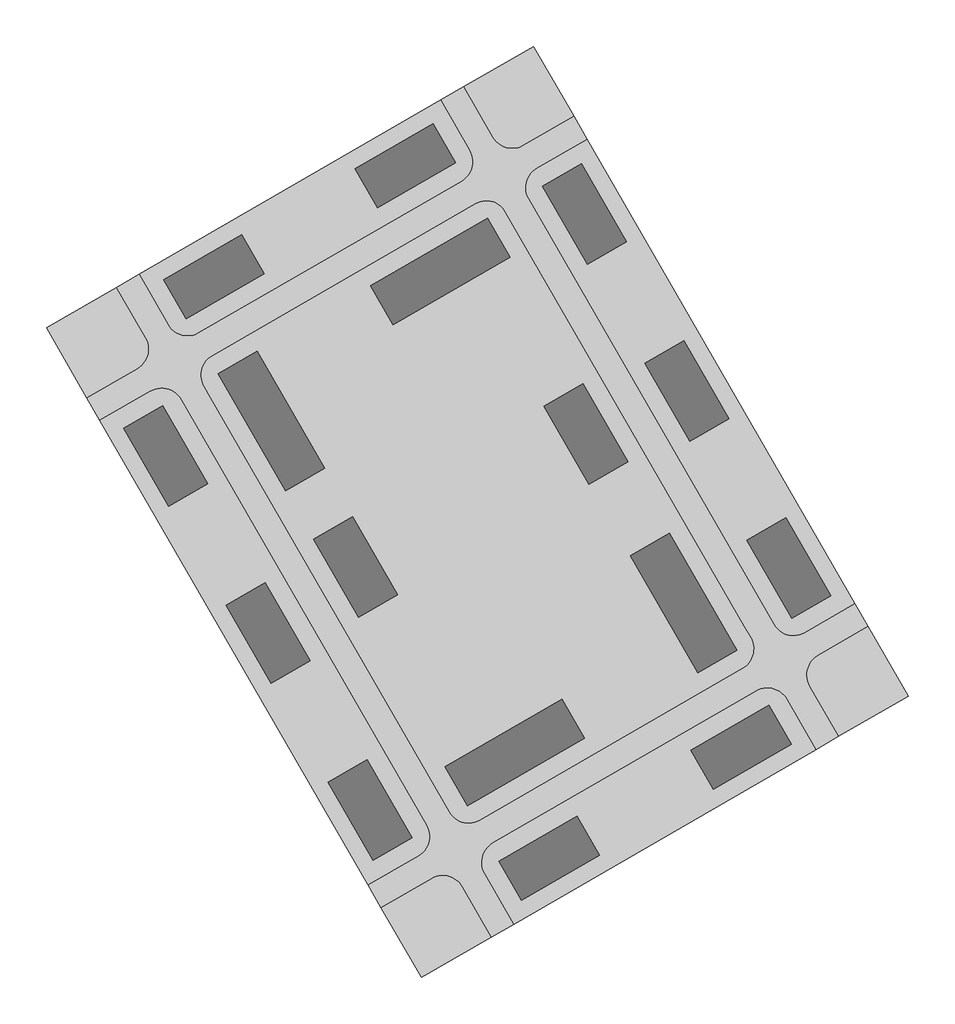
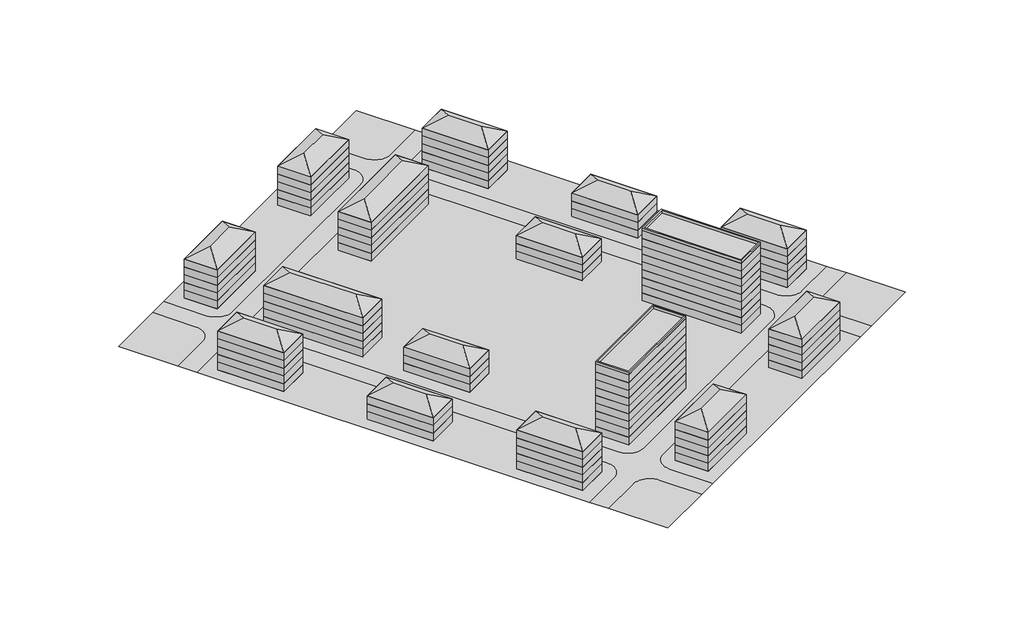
# One storey: 16 geographic elements, 10 proxies.
"""IFC4 building model written with IfcOpenShell, lengths in millimetres."""

from ifc_helpers import new_model, si_unit, origin, place, context, project, spatial, triangles, transform, mapped, element, save
from components import geographic_element_74677d7c, geographic_element_1048d0ae, geographic_element_9d3f6571, geographic_element_2330d4c5, geographic_element_d360f546, geographic_element_9aaef536

model = new_model("IFC4")

# Units and contexts
model_context = context("Model", 3, world=origin())
ifc_project = project(units=[si_unit("LENGTHUNIT", "METRE", prefix="MILLI")], contexts=[model_context])

# Site, building, storey
site = spatial("IfcSite", under=ifc_project)
building = spatial("IfcBuilding", under=site)
storey = spatial("IfcBuildingStorey", under=building, Name="Уровень 1", Elevation=0.0)

# Proxies
placement = place(None, origin())
element("IfcBuildingElementProxy", 1, Name="Building Element Proxy", at=placement, inside=storey, context=model_context, shape_type="Tessellation", body=[
    triangles([(176741.3793457, 76104.7360474, 0.0), (163317.994043, 68354.7346802, 0.0), (162669.791748, 68031.0102539, 0.0), (161987.2845703, 67787.7785889, 0.0), (161280.4439941, 67628.5883057, 0.0), (160559.5763672, 67555.755542, 0.0), (159835.1926758, 67570.3453491, 0.0), (159117.8225098, 67672.1437866, 0.0), (158417.9768555, 67859.6672241, 0.0), (157745.8318359, 68130.1855957, 0.0), (157111.1915039, 68479.7456543, 0.0), (156523.3204102, 68903.2593384, 0.0), (155990.7668701, 69394.540979, 0.0), (155521.3257568, 69946.4328735, 0.0), (155121.8338623, 70550.8890015, 0.0), (89621.8319092, 184000.2106934, 0.0), (89298.1121338, 184648.4129883, 0.0), (89054.8804688, 185330.920166, 0.0), (88895.6808838, 186037.7421387, 0.0), (88822.8481201, 186758.6283691, 0.0), (88837.4425781, 187483.0120605, 0.0), (88939.2410156, 188200.363623, 0.0), (89126.7644531, 188900.2278809, 0.0), (89397.2781738, 189572.3729004, 0.0), (89746.8475342, 190207.0132324, 0.0), (90170.3565674, 190794.8843262, 0.0), (90661.638208, 191327.4285645, 0.0), (91213.5301025, 191796.8696777, 0.0), (91817.9862305, 192196.3615723, 0.0), (105241.380835, 199946.3629395, 0.0), (101741.3805176, 206008.541748, 0.0), (88317.9859131, 198258.5403809, 0.0), (87669.7836182, 197934.8206055, 0.0), (86987.2857422, 197691.5982422, 0.0), (86280.4544678, 197532.3893555, 0.0), (85559.5775391, 197459.5565918, 0.0), (84835.1845459, 197474.1603516, 0.0), (84117.8329834, 197575.9587891, 0.0), (83417.9780273, 197763.4822266, 0.0), (82745.8330078, 198033.9959473, 0.0), (82111.1926758, 198383.5560059, 0.0), (81523.3122803, 198807.0650391, 0.0), (80990.768042, 199298.3466797, 0.0), (80521.3269287, 199850.2385742, 0.0), (80121.8350342, 200454.7040039, 0.0), (72371.833667, 213878.0893066, 0.0), (66309.6548584, 210378.098291, 0.0), (74059.6562256, 196954.6943848, 0.0), (74383.3806519, 196306.4920898, 0.0), (74626.6123169, 195624.0035156, 0.0), (74785.8026001, 194917.1629395, 0.0), (74858.6353638, 194196.2953125, 0.0), (74844.0455566, 193471.8930176, 0.0), (74742.2471191, 192754.5414551, 0.0), (74554.7190308, 192054.6958008, 0.0), (74284.2053101, 191382.5507812, 0.0), (73934.6452515, 190747.9104492, 0.0), (73511.1315674, 190160.020752, 0.0), (73019.8499268, 189627.4765137, 0.0), (72467.9580322, 189158.0354004, 0.0), (71863.5019043, 188758.5435059, 0.0), (1715.4448551, 148258.5504639, 0.0), (1067.2445223, 147934.8213867, 0.0), (384.7496258, 147691.5897217, 0.0), (-322.0874986, 147532.3994385, 0.0), (-1042.9595221, 147459.5666748, 0.0), (-1767.3546227, 147474.1518311, 0.0), (-2484.7093826, 147575.9502686, 0.0), (-3184.563176, 147763.4830078, 0.0), (-3856.7105209, 148033.9967285, 0.0), (-4491.3499809, 148383.5567871, 0.0), (-5079.227179, 148807.0658203, 0.0), (-5611.7696732, 149298.3567627, 0.0), (-6081.2119492, 149850.2486572, 0.0), (-6480.7073318, 150454.6954834, 0.0), (-14230.7081177, 163878.0900879, 0.0), (-20292.8846008, 160378.0990723, 0.0), (-12542.8855591, 146954.695166, 0.0), (-12219.1611328, 146306.5021729, 0.0), (-11975.9294678, 145624.0042969, 0.0), (-11816.7356964, 144917.1637207, 0.0), (-11743.9040955, 144196.2960938, 0.0), (-11758.4939026, 143471.9031006, 0.0), (-11860.2935028, 142754.5422363, 0.0), (-12047.8192657, 142054.6872803, 0.0), (-12318.3353119, 141382.5422607, 0.0), (-12667.8976959, 140747.9019287, 0.0), (-13091.4078918, 140160.0215332, 0.0), (-13582.6918579, 139627.4865967, 0.0), (-14134.5837524, 139158.0454834, 0.0), (-14239.3436371, 139088.8031982, 0.0), (-14739.0375549, 138758.5442871, 0.0), (-28162.4321594, 131008.5429199, 0.0), (-24662.431842, 124946.3641113, 0.0), (-11239.0384003, 132696.3654785, 0.0), (-10590.8372681, 133020.0945557, 0.0), (-9908.3428802, 133263.3262207, 0.0), (-9201.5057922, 133422.5165039, 0.0), (-8480.6335144, 133495.3492676, 0.0), (-7756.2381958, 133480.7641113, 0.0), (-7038.8837265, 133378.9563721, 0.0), (-6339.0299332, 133191.4329346, 0.0), (-5666.8825882, 132920.9192139, 0.0), (-5032.2428375, 132571.3591553, 0.0), (-4444.3656395, 132147.8501221, 0.0), (-3911.8231453, 131656.5591797, 0.0), (-3442.38116, 131104.6672852, 0.0), (-3042.8854866, 130500.2111572, 0.0), (62457.113269, 17050.8883026, 0.0), (62780.8376953, 16402.6871704, 0.0), (63024.0693604, 15720.1927826, 0.0), (63183.2642944, 15013.3556946, 0.0), (63256.0970581, 14292.4834167, 0.0), (63241.507251, 13568.0880981, 0.0), (63139.7041626, 12850.7342102, 0.0), (62952.1807251, 12150.8804169, 0.0), (62681.6670044, 11478.7319092, 0.0), (62332.1022949, 10844.0927399, 0.0), (61908.5932617, 10256.2158325, 0.0), (61417.3069702, 9723.6733383, 0.0), (60865.4150757, 9254.2310623, 0.0), (60260.9635986, 8854.7356796, 0.0), (46837.5689941, 1104.7354025, 0.0), (50337.5693115, -4957.4421707, 0.0), (63760.963916, 2792.5574524, 0.0), (64409.1615601, 3116.2818787, 0.0), (65091.659436, 3359.5138344, 0.0), (65798.4953613, 3518.7067337, 0.0), (66519.3676392, 3591.5392067, 0.0), (67243.7606323, 3576.9491089, 0.0), (67961.1168457, 3475.149218, 0.0), (68660.9718018, 3287.6237457, 0.0), (69333.1168213, 3017.1076996, 0.0), (69967.7571533, 2667.5456062, 0.0), (70555.6328979, 2244.0349743, 0.0), (71088.1771362, 1752.7512989, 0.0), (71557.6182495, 1200.8587503, 0.0), (71957.1147949, 596.4051659, 0.0), (79707.1161621, -12826.9891479, 0.0), (85769.2949707, -9326.9888306, 0.0), (78019.2936035, 4096.4051926, 0.0), (77695.5691772, 4744.6054527, 0.0), (77452.3375122, 5427.1001312, 0.0), (77293.1425781, 6133.9372192, 0.0), (77220.3098145, 6854.8094971, 0.0), (77234.8996216, 7579.2048157, 0.0), (77336.70271, 8296.559285, 0.0), (77524.2261475, 8996.4130783, 0.0), (77794.744519, 9668.5604233, 0.0), (78144.2999268, 10303.200174, 0.0), (78567.8182617, 10891.0770813, 0.0), (79059.0999023, 11423.6201569, 0.0), (79610.9917969, 11893.0612701, 0.0), (80215.4479248, 12292.5578156, 0.0), (150363.5010498, 52792.5589966, 0.0), (151011.7033447, 53116.2834229, 0.0), (151694.2012207, 53359.5150879, 0.0), (152401.0324951, 53518.7053711, 0.0), (153121.9094238, 53591.5381348, 0.0), (153846.302417, 53576.9483276, 0.0), (154563.6539795, 53475.1498901, 0.0), (155263.5089355, 53287.6218018, 0.0), (155935.6539551, 53017.1080811, 0.0), (156570.2942871, 52667.5433716, 0.0), (157158.1839844, 52244.0343384, 0.0), (157690.7096191, 51752.7526978, 0.0), (158160.1507324, 51200.8608032, 0.0), (158559.6612305, 50596.4046753, 0.0), (166309.6625977, 37173.0123962, 0.0), (172371.8414062, 40673.0103882, 0.0), (164621.8400391, 54096.4049927, 0.0), (164298.1016602, 54744.6072876, 0.0), (164054.8792969, 55427.1005127, 0.0), (163895.6890137, 56133.936438, 0.0), (163822.85625, 56854.8087158, 0.0), (163837.4414062, 57579.2063599, 0.0), (163939.2398437, 58296.5579224, 0.0), (164126.7632812, 58996.4128784, 0.0), (164397.277002, 59668.5625488, 0.0), (164746.8370605, 60303.19823, 0.0), (165170.3646973, 60891.0786255, 0.0), (165661.6463379, 61423.6182129, 0.0), (166213.5382324, 61893.0639771, 0.0), (166318.2946289, 61962.3016113, 0.0), (166817.9850586, 62292.5558716, 0.0), (180241.3703613, 70042.5572388, 0.0), (75363.5022217, 182696.3646973, 0.0), (76011.7045166, 183020.0844727, 0.0), (76694.1977417, 183263.3254395, 0.0), (77401.033667, 183422.5157227, 0.0), (78121.9105957, 183495.3484863, 0.0), (78846.3035889, 183480.7633301, 0.0), (79563.6551514, 183378.9648926, 0.0), (80263.5101074, 183191.4414551, 0.0), (80935.655127, 182920.9091309, 0.0), (81570.295459, 182571.3490723, 0.0), (82158.1758545, 182147.8400391, 0.0), (82690.7200928, 181656.5583984, 0.0), (83160.1612061, 181104.6665039, 0.0), (83559.6531006, 180500.2196777, 0.0), (147309.6595459, 70081.9780884, 0.0), (149059.6550537, 67050.8886841, 0.0), (149383.3748291, 66402.6863892, 0.0), (149626.6157959, 65720.1931641, 0.0), (149785.8060791, 65013.3572388, 0.0), (149858.6388428, 64292.4849609, 0.0), (149844.0443848, 63568.0873169, 0.0), (149742.2459473, 62850.7357544, 0.0), (149554.7225098, 62150.8807983, 0.0), (149284.2087891, 61478.7311279, 0.0), (148934.6394287, 60844.0907959, 0.0), (148511.1303955, 60256.2150513, 0.0), (148019.8487549, 59723.6754639, 0.0), (147467.9568604, 59254.2296997, 0.0), (146863.5007324, 58854.7331543, 0.0), (76715.4429565, 18354.7354614, 0.0), (76067.2453125, 18031.0110352, 0.0), (75384.7474365, 17787.7793701, 0.0), (74677.9115112, 17628.5867615, 0.0), (73957.0392334, 17555.7539978, 0.0), (73232.6462402, 17570.3438049, 0.0), (72515.2900269, 17672.1434052, 0.0), (71815.4350708, 17859.6691681, 0.0), (71143.2900513, 18130.1852142, 0.0), (70508.6497192, 18479.7475983, 0.0), (69920.7739746, 18903.2577942, 0.0), (69388.2297363, 19394.5417603, 0.0), (68918.788623, 19946.4336548, 0.0), (68519.2920776, 20550.8874573, 0.0), (4769.292318, 130969.1313721, 0.0), (3019.29245, 134000.2114746, 0.0), (2695.5680237, 134648.4137695, 0.0), (2452.336068, 135330.9116455, 0.0), (2293.143314, 136037.7522217, 0.0), (2220.310841, 136758.6198486, 0.0), (2234.9009388, 137483.0128418, 0.0), (2336.700975, 138200.3737061, 0.0), (2524.2261566, 138900.2193604, 0.0), (2794.7422028, 139572.3736816, 0.0), (3144.3042961, 140207.0140137, 0.0), (3567.8150734, 140794.8851074, 0.0), (4059.0987488, 141327.4293457, 0.0), (4610.9912247, 141796.870459, 0.0), (5215.4450272, 142196.3716553, 0.0)], [[122, 123, 125], [121, 122, 126], [94, 92, 93], [108, 109, 230], [231, 108, 230], [127, 120, 121], [118, 119, 129], [119, 120, 128], [117, 131, 116], [109, 110, 228], [118, 130, 117], [123, 124, 125], [230, 109, 229], [91, 95, 96], [92, 94, 95], [87, 98, 99], [85, 100, 101], [86, 99, 100], [89, 96, 97], [235, 104, 105], [233, 106, 107], [234, 105, 106], [237, 102, 103], [104, 236, 103], [108, 232, 107], [101, 102, 68], [108, 231, 232], [107, 232, 233], [88, 97, 98], [128, 120, 127], [127, 121, 126], [129, 130, 118], [119, 128, 129], [131, 117, 130], [116, 131, 147], [126, 122, 125], [133, 134, 145], [142, 136, 137], [134, 135, 144], [116, 148, 115], [147, 131, 132], [115, 148, 222], [133, 146, 132], [136, 143, 135], [111, 112, 226], [225, 112, 113], [226, 112, 225], [229, 109, 228], [226, 227, 111], [110, 227, 228], [113, 114, 224], [110, 111, 227], [223, 115, 222], [220, 221, 150], [222, 149, 221], [224, 225, 113], [224, 114, 223], [220, 151, 219], [223, 114, 115], [219, 152, 218], [137, 138, 141], [90, 91, 96], [96, 89, 90], [98, 87, 88], [86, 87, 99], [88, 89, 97], [101, 68, 69], [83, 84, 70], [85, 69, 84], [79, 80, 74], [81, 82, 72], [80, 81, 73], [83, 71, 82], [85, 86, 100], [78, 79, 75], [74, 80, 73], [71, 72, 82], [77, 78, 76], [76, 78, 75], [74, 75, 79], [73, 81, 72], [238, 67, 68], [240, 65, 66], [66, 67, 239], [69, 70, 84], [242, 63, 64], [64, 65, 241], [69, 85, 101], [71, 83, 70], [92, 95, 91], [104, 235, 236], [105, 234, 235], [238, 68, 102], [102, 237, 238], [239, 67, 238], [239, 240, 66], [236, 237, 103], [241, 65, 240], [243, 63, 242], [242, 64, 241], [243, 244, 62], [61, 244, 187], [62, 244, 61], [243, 62, 63], [61, 187, 188], [60, 61, 188], [190, 58, 59], [59, 60, 189], [45, 46, 47], [48, 45, 47], [57, 58, 191], [193, 55, 56], [39, 53, 54], [54, 55, 23], [44, 48, 49], [41, 51, 52], [43, 49, 50], [52, 53, 40], [56, 57, 192], [42, 50, 51], [188, 189, 60], [106, 233, 234], [144, 135, 143], [143, 136, 142], [147, 132, 146], [149, 222, 148], [148, 116, 147], [146, 133, 145], [140, 141, 138], [142, 137, 141], [152, 219, 151], [153, 217, 218], [153, 218, 152], [151, 220, 150], [138, 139, 140], [150, 221, 149], [217, 154, 216], [154, 217, 153], [215, 216, 155], [154, 155, 216], [157, 212, 213], [213, 214, 156], [215, 155, 214], [210, 211, 159], [9, 208, 209], [210, 160, 209], [13, 204, 205], [11, 206, 207], [12, 205, 206], [207, 208, 10], [212, 158, 211], [145, 134, 144], [213, 156, 157], [211, 158, 159], [209, 161, 9], [161, 162, 8], [212, 157, 158], [172, 167, 168], [168, 169, 171], [166, 167, 173], [163, 164, 176], [174, 165, 166], [164, 165, 175], [169, 170, 171], [162, 163, 177], [175, 176, 164], [165, 174, 175], [174, 166, 173], [172, 173, 167], [177, 163, 176], [162, 178, 8], [178, 162, 177], [7, 178, 179], [6, 179, 180], [161, 209, 160], [181, 182, 4], [3, 183, 184], [3, 182, 183], [180, 181, 5], [168, 171, 172], [160, 210, 159], [214, 155, 156], [2, 184, 185], [194, 195, 21], [192, 57, 191], [22, 55, 193], [193, 56, 192], [193, 194, 22], [191, 58, 190], [19, 197, 18], [17, 198, 199], [18, 197, 198], [20, 21, 195], [20, 196, 19], [196, 197, 19], [20, 195, 196], [199, 200, 16], [21, 22, 194], [52, 40, 41], [53, 39, 40], [45, 48, 44], [50, 42, 43], [43, 44, 49], [51, 41, 42], [25, 36, 37], [34, 35, 27], [36, 26, 35], [24, 37, 38], [29, 32, 33], [33, 34, 28], [55, 22, 23], [54, 38, 39], [38, 54, 23], [190, 59, 189], [203, 15, 202], [207, 10, 11], [206, 11, 12], [14, 203, 204], [13, 205, 12], [204, 13, 14], [15, 203, 14], [9, 161, 8], [7, 179, 6], [178, 7, 8], [3, 184, 2], [182, 3, 4], [181, 4, 5], [10, 208, 9], [180, 5, 6], [16, 17, 199], [18, 198, 17], [24, 25, 37], [28, 34, 27], [25, 26, 36], [23, 24, 38], [201, 202, 15], [1, 2, 185], [30, 32, 29], [31, 32, 30], [33, 28, 29], [201, 15, 16], [16, 200, 201], [27, 35, 26], [185, 186, 1]], closed=False),
])
element("IfcBuildingElementProxy", 2, Name="Building Element Proxy", at=placement, inside=storey, context=model_context, shape_type="Tessellation", body=[
    triangles([(74059.6562256, 196954.6943848, 0.0), (66309.6548584, 210378.098291, 0.0), (-14230.7081177, 163878.0900879, 0.0), (-6480.7073318, 150454.6954834, 0.0), (-6081.2119492, 149850.2486572, 0.0), (-5611.7696732, 149298.3567627, 0.0), (-5079.227179, 148807.0658203, 0.0), (-4491.3499809, 148383.5567871, 0.0), (-3856.7105209, 148033.9967285, 0.0), (-3184.563176, 147763.4830078, 0.0), (-2484.7093826, 147575.9502686, 0.0), (-1767.3546227, 147474.1518311, 0.0), (-1042.9595221, 147459.5666748, 0.0), (-322.0874986, 147532.3994385, 0.0), (384.7496258, 147691.5897217, 0.0), (1067.2445223, 147934.8213867, 0.0), (1715.4448551, 148258.5504639, 0.0), (71863.5019043, 188758.5435059, 0.0), (72467.9580322, 189158.0354004, 0.0), (73019.8499268, 189627.4765137, 0.0), (73511.1315674, 190160.020752, 0.0), (73934.6452515, 190747.9104492, 0.0), (74284.2053101, 191382.5507812, 0.0), (74554.7190308, 192054.6958008, 0.0), (74742.2471191, 192754.5414551, 0.0), (74844.0455566, 193471.8930176, 0.0), (74858.6353638, 194196.2953125, 0.0), (74785.8026001, 194917.1629395, 0.0), (74626.6123169, 195624.0035156, 0.0), (74383.3806519, 196306.4920898, 0.0)], [[4, 10, 11], [12, 4, 11], [4, 13, 14], [14, 15, 4], [13, 4, 12], [4, 15, 16], [5, 6, 4], [17, 3, 4], [4, 6, 7], [4, 9, 10], [4, 16, 17], [8, 9, 4], [7, 8, 4], [3, 17, 2], [19, 25, 18], [24, 19, 20], [21, 22, 23], [24, 20, 23], [23, 20, 21], [25, 19, 24], [29, 30, 18], [30, 1, 18], [1, 2, 18], [26, 27, 18], [28, 18, 27], [28, 29, 18], [26, 18, 25], [18, 2, 17]], closed=False),
])
element("IfcBuildingElementProxy", 3, Name="Building Element Proxy", at=placement, inside=storey, context=model_context, shape_type="Tessellation", body=[
    triangles([(-38912.4318054, 149628.0947754, 0.0), (-28162.4321594, 131008.5429199, 0.0), (-14739.0375549, 138758.5442871, 0.0), (-14239.3436371, 139088.8031982, 0.0), (-14134.5837524, 139158.0454834, 0.0), (-13582.6918579, 139627.4865967, 0.0), (-13091.4078918, 140160.0215332, 0.0), (-12667.8976959, 140747.9019287, 0.0), (-12318.3353119, 141382.5422607, 0.0), (-12047.8192657, 142054.6872803, 0.0), (-11860.2935028, 142754.5422363, 0.0), (-11758.4939026, 143471.9031006, 0.0), (-11743.9040955, 144196.2960938, 0.0), (-11816.7356964, 144917.1637207, 0.0), (-11975.9294678, 145624.0042969, 0.0), (-12219.1611328, 146306.5021729, 0.0), (-12542.8855591, 146954.695166, 0.0), (-20292.8846008, 160378.0990723, 0.0)], [[1, 2, 3], [4, 17, 3], [6, 4, 5], [18, 1, 17], [7, 8, 4], [1, 3, 17], [7, 4, 6], [8, 9, 4], [11, 4, 10], [4, 11, 12], [4, 12, 13], [4, 16, 17], [14, 15, 4], [16, 4, 15], [4, 13, 14], [4, 9, 10]], closed=False),
])
element("IfcBuildingElementProxy", 4, Name="Building Element Proxy", at=placement, inside=storey, context=model_context, shape_type="Tessellation", body=[
    triangles([(90991.3762207, 224628.0936035, 0.0), (72371.833667, 213878.0893066, 0.0), (80121.8350342, 200454.7040039, 0.0), (80521.3269287, 199850.2385742, 0.0), (80990.768042, 199298.3466797, 0.0), (81523.3122803, 198807.0650391, 0.0), (82111.1926758, 198383.5560059, 0.0), (82745.8330078, 198033.9959473, 0.0), (83417.9780273, 197763.4822266, 0.0), (84117.8329834, 197575.9587891, 0.0), (84835.1845459, 197474.1603516, 0.0), (85559.5775391, 197459.5565918, 0.0), (86280.4544678, 197532.3893555, 0.0), (86987.2857422, 197691.5982422, 0.0), (87669.7836182, 197934.8206055, 0.0), (88317.9859131, 198258.5403809, 0.0), (101741.3805176, 206008.541748, 0.0)], [[3, 6, 7], [3, 7, 8], [3, 8, 9], [3, 5, 6], [4, 5, 3], [2, 3, 1], [3, 9, 10], [11, 12, 3], [13, 3, 12], [13, 14, 3], [16, 3, 15], [16, 17, 1], [3, 16, 1], [14, 15, 3], [10, 11, 3]], closed=False),
])
element("IfcBuildingElementProxy", 5, Name="Building Element Proxy", at=placement, inside=storey, context=model_context, shape_type="Tessellation", body=[
    triangles([(163317.994043, 68354.7346802, 0.0), (176741.3793457, 76104.7360474, 0.0), (105241.380835, 199946.3629395, 0.0), (91817.9862305, 192196.3615723, 0.0), (91213.5301025, 191796.8696777, 0.0), (90661.638208, 191327.4285645, 0.0), (90170.3565674, 190794.8843262, 0.0), (89746.8475342, 190207.0132324, 0.0), (89397.2781738, 189572.3729004, 0.0), (89126.7644531, 188900.2278809, 0.0), (88939.2410156, 188200.363623, 0.0), (88837.4425781, 187483.0120605, 0.0), (88822.8481201, 186758.6283691, 0.0), (88895.6808838, 186037.7421387, 0.0), (89054.8804688, 185330.920166, 0.0), (89298.1121338, 184648.4129883, 0.0), (89621.8319092, 184000.2106934, 0.0), (155121.8338623, 70550.8890015, 0.0), (155521.3257568, 69946.4328735, 0.0), (155990.7668701, 69394.540979, 0.0), (156523.3204102, 68903.2593384, 0.0), (157111.1915039, 68479.7456543, 0.0), (157745.8318359, 68130.1855957, 0.0), (158417.9768555, 67859.6672241, 0.0), (159117.8225098, 67672.1437866, 0.0), (159835.1926758, 67570.3453491, 0.0), (160559.5763672, 67555.755542, 0.0), (161280.4439941, 67628.5883057, 0.0), (161987.2845703, 67787.7785889, 0.0), (162669.791748, 68031.0102539, 0.0)], [[11, 12, 4], [13, 4, 12], [4, 15, 16], [15, 4, 14], [13, 14, 4], [16, 17, 4], [4, 8, 9], [4, 7, 8], [9, 10, 4], [6, 7, 5], [5, 7, 4], [11, 4, 10], [17, 3, 4], [17, 18, 3], [25, 1, 24], [26, 1, 25], [27, 28, 30], [29, 30, 28], [26, 27, 1], [27, 30, 1], [19, 20, 1], [1, 18, 19], [1, 20, 21], [23, 1, 22], [1, 23, 24], [1, 21, 22], [18, 1, 2], [18, 2, 3]], closed=False),
])
element("IfcBuildingElementProxy", 6, Name="Building Element Proxy", at=placement, inside=storey, context=model_context, shape_type="Tessellation", body=[
    triangles([(60260.9635986, 8854.7356796, 0.0), (60865.4150757, 9254.2310623, 0.0), (61417.3069702, 9723.6733383, 0.0), (61908.5932617, 10256.2158325, 0.0), (62332.1022949, 10844.0927399, 0.0), (62681.6670044, 11478.7319092, 0.0), (62952.1807251, 12150.8804169, 0.0), (63139.7041626, 12850.7342102, 0.0), (63241.507251, 13568.0880981, 0.0), (63256.0970581, 14292.4834167, 0.0), (63183.2642944, 15013.3556946, 0.0), (63024.0693604, 15720.1927826, 0.0), (62780.8376953, 16402.6871704, 0.0), (62457.113269, 17050.8883026, 0.0), (-3042.8854866, 130500.2111572, 0.0), (-3442.38116, 131104.6672852, 0.0), (-3911.8231453, 131656.5591797, 0.0), (-4444.3656395, 132147.8501221, 0.0), (-5032.2428375, 132571.3591553, 0.0), (-5666.8825882, 132920.9192139, 0.0), (-6339.0299332, 133191.4329346, 0.0), (-7038.8837265, 133378.9563721, 0.0), (-7756.2381958, 133480.7641113, 0.0), (-8480.6335144, 133495.3492676, 0.0), (-9201.5057922, 133422.5165039, 0.0), (-9908.3428802, 133263.3262207, 0.0), (-10590.8372681, 133020.0945557, 0.0), (-11239.0384003, 132696.3654785, 0.0), (-24662.431842, 124946.3641113, 0.0), (46837.5689941, 1104.7354025, 0.0)], [[28, 18, 19], [15, 28, 29], [28, 19, 27], [17, 28, 16], [18, 28, 17], [16, 28, 15], [29, 14, 15], [21, 25, 26], [22, 24, 25], [26, 27, 20], [22, 25, 21], [23, 24, 22], [21, 26, 20], [27, 19, 20], [1, 14, 30], [2, 7, 1], [3, 4, 5], [5, 6, 3], [3, 6, 2], [6, 7, 2], [12, 13, 1], [1, 11, 12], [14, 1, 13], [7, 8, 1], [10, 1, 9], [1, 10, 11], [8, 9, 1], [30, 14, 29]], closed=False),
])
element("IfcBuildingElementProxy", 7, Name="Building Element Proxy", at=placement, inside=storey, context=model_context, shape_type="Tessellation", body=[
    triangles([(61087.5689575, -23576.9887939, 0.0), (79707.1161621, -12826.9891479, 0.0), (71957.1147949, 596.4051659, 0.0), (71557.6182495, 1200.8587503, 0.0), (71088.1771362, 1752.7512989, 0.0), (70555.6328979, 2244.0349743, 0.0), (69967.7571533, 2667.5456062, 0.0), (69333.1168213, 3017.1076996, 0.0), (68660.9718018, 3287.6237457, 0.0), (67961.1168457, 3475.149218, 0.0), (67243.7606323, 3576.9491089, 0.0), (66519.3676392, 3591.5392067, 0.0), (65798.4953613, 3518.7067337, 0.0), (65091.659436, 3359.5138344, 0.0), (64409.1615601, 3116.2818787, 0.0), (63760.963916, 2792.5574524, 0.0), (50337.5693115, -4957.4421707, 0.0)], [[17, 1, 16], [15, 3, 14], [3, 15, 16], [3, 12, 13], [3, 11, 12], [3, 13, 14], [16, 1, 3], [4, 5, 3], [11, 3, 10], [3, 5, 6], [10, 3, 9], [3, 7, 8], [8, 9, 3], [7, 3, 6], [3, 1, 2]], closed=False),
])
element("IfcBuildingElementProxy", 8, Name="Building Element Proxy", at=placement, inside=storey, context=model_context, shape_type="Tessellation", body=[
    triangles([(78019.2936035, 4096.4051926, 0.0), (85769.2949707, -9326.9888306, 0.0), (166309.6625977, 37173.0123962, 0.0), (158559.6612305, 50596.4046753, 0.0), (158160.1507324, 51200.8608032, 0.0), (157690.7096191, 51752.7526978, 0.0), (157158.1839844, 52244.0343384, 0.0), (156570.2942871, 52667.5433716, 0.0), (155935.6539551, 53017.1080811, 0.0), (155263.5089355, 53287.6218018, 0.0), (154563.6539795, 53475.1498901, 0.0), (153846.302417, 53576.9483276, 0.0), (153121.9094238, 53591.5381348, 0.0), (152401.0324951, 53518.7053711, 0.0), (151694.2012207, 53359.5150879, 0.0), (151011.7033447, 53116.2834229, 0.0), (150363.5010498, 52792.5589966, 0.0), (80215.4479248, 12292.5578156, 0.0), (79610.9917969, 11893.0612701, 0.0), (79059.0999023, 11423.6201569, 0.0), (78567.8182617, 10891.0770813, 0.0), (78144.2999268, 10303.200174, 0.0), (77794.744519, 9668.5604233, 0.0), (77524.2261475, 8996.4130783, 0.0), (77336.70271, 8296.559285, 0.0), (77234.8996216, 7579.2048157, 0.0), (77220.3098145, 6854.8094971, 0.0), (77293.1425781, 6133.9372192, 0.0), (77452.3375122, 5427.1001312, 0.0), (77695.5691772, 4744.6054527, 0.0)], [[26, 27, 21], [28, 20, 27], [30, 1, 18], [18, 29, 30], [19, 28, 29], [18, 1, 2], [24, 25, 23], [22, 23, 25], [26, 22, 25], [26, 21, 22], [27, 20, 21], [19, 20, 28], [29, 18, 19], [2, 17, 18], [8, 4, 7], [17, 4, 16], [9, 4, 8], [4, 6, 7], [5, 6, 4], [4, 17, 3], [17, 2, 3], [14, 15, 4], [13, 14, 4], [16, 4, 15], [10, 11, 4], [12, 4, 11], [12, 13, 4], [10, 4, 9]], closed=False),
])
element("IfcBuildingElementProxy", 9, Name="Building Element Proxy", at=placement, inside=storey, context=model_context, shape_type="Tessellation", body=[
    triangles([(190991.3746582, 51423.0100342, 0.0), (180241.3703613, 70042.5572388, 0.0), (166817.9850586, 62292.5558716, 0.0), (166318.2946289, 61962.3016113, 0.0), (166213.5382324, 61893.0639771, 0.0), (165661.6463379, 61423.6182129, 0.0), (165170.3646973, 60891.0786255, 0.0), (164746.8370605, 60303.19823, 0.0), (164397.277002, 59668.5625488, 0.0), (164126.7632812, 58996.4128784, 0.0), (163939.2398437, 58296.5579224, 0.0), (163837.4414062, 57579.2063599, 0.0), (163822.85625, 56854.8087158, 0.0), (163895.6890137, 56133.936438, 0.0), (164054.8792969, 55427.1005127, 0.0), (164298.1016602, 54744.6072876, 0.0), (164621.8400391, 54096.4049927, 0.0), (172371.8414062, 40673.0103882, 0.0)], [[13, 14, 4], [14, 15, 4], [15, 16, 4], [12, 13, 4], [4, 11, 12], [11, 4, 10], [10, 4, 9], [16, 17, 4], [4, 7, 8], [17, 3, 4], [18, 1, 17], [17, 1, 3], [5, 6, 4], [7, 4, 6], [9, 4, 8], [1, 2, 3]], closed=False),
])
element("IfcBuildingElementProxy", 10, Name="Building Element Proxy", at=placement, inside=storey, context=model_context, shape_type="Tessellation", body=[
    triangles([(75363.5022217, 182696.3646973, 0.0), (5215.4450272, 142196.3716553, 0.0), (4610.9912247, 141796.870459, 0.0), (4059.0987488, 141327.4293457, 0.0), (3567.8150734, 140794.8851074, 0.0), (3144.3042961, 140207.0140137, 0.0), (2794.7422028, 139572.3736816, 0.0), (2524.2261566, 138900.2193604, 0.0), (2336.700975, 138200.3737061, 0.0), (2234.9009388, 137483.0128418, 0.0), (2220.310841, 136758.6198486, 0.0), (2293.143314, 136037.7522217, 0.0), (2452.336068, 135330.9116455, 0.0), (2695.5680237, 134648.4137695, 0.0), (3019.29245, 134000.2114746, 0.0), (4769.292318, 130969.1313721, 0.0), (68519.2920776, 20550.8874573, 0.0), (68918.788623, 19946.4336548, 0.0), (69388.2297363, 19394.5417603, 0.0), (69920.7739746, 18903.2577942, 0.0), (70508.6497192, 18479.7475983, 0.0), (71143.2900513, 18130.1852142, 0.0), (71815.4350708, 17859.6691681, 0.0), (72515.2900269, 17672.1434052, 0.0), (73232.6462402, 17570.3438049, 0.0), (73957.0392334, 17555.7539978, 0.0), (74677.9115112, 17628.5867615, 0.0), (75384.7474365, 17787.7793701, 0.0), (76067.2453125, 18031.0110352, 0.0), (76715.4429565, 18354.7354614, 0.0), (146863.5007324, 58854.7331543, 0.0), (147467.9568604, 59254.2296997, 0.0), (148019.8487549, 59723.6754639, 0.0), (148511.1303955, 60256.2150513, 0.0), (148934.6394287, 60844.0907959, 0.0), (149284.2087891, 61478.7311279, 0.0), (149554.7225098, 62150.8807983, 0.0), (149742.2459473, 62850.7357544, 0.0), (149844.0443848, 63568.0873169, 0.0), (149858.6388428, 64292.4849609, 0.0), (149785.8060791, 65013.3572388, 0.0), (149626.6157959, 65720.1931641, 0.0), (149383.3748291, 66402.6863892, 0.0), (149059.6550537, 67050.8886841, 0.0), (147309.6595459, 70081.9780884, 0.0), (83559.6531006, 180500.2196777, 0.0), (83160.1612061, 181104.6665039, 0.0), (82690.7200928, 181656.5583984, 0.0), (82158.1758545, 182147.8400391, 0.0), (81570.295459, 182571.3490723, 0.0), (80935.655127, 182920.9091309, 0.0), (80263.5101074, 183191.4414551, 0.0), (79563.6551514, 183378.9648926, 0.0), (78846.3035889, 183480.7633301, 0.0), (78121.9105957, 183495.3484863, 0.0), (77401.033667, 183422.5157227, 0.0), (76694.1977417, 183263.3254395, 0.0), (76011.7045166, 183020.0844727, 0.0)], [[28, 19, 20], [29, 18, 19], [46, 1, 16], [30, 17, 18], [2, 15, 16], [27, 20, 21], [22, 25, 26], [26, 27, 21], [23, 24, 25], [22, 23, 25], [27, 28, 20], [21, 22, 26], [16, 17, 45], [12, 3, 11], [13, 2, 12], [5, 9, 10], [6, 8, 9], [4, 10, 11], [13, 14, 2], [7, 8, 6], [6, 9, 5], [4, 5, 10], [11, 3, 4], [12, 2, 3], [2, 14, 15], [1, 2, 16], [1, 54, 58], [19, 28, 29], [17, 30, 45], [30, 31, 45], [37, 32, 33], [33, 34, 36], [31, 32, 38], [35, 36, 34], [37, 38, 32], [38, 39, 31], [31, 41, 42], [41, 31, 40], [40, 31, 39], [33, 36, 37], [42, 43, 31], [52, 53, 1], [1, 51, 52], [53, 54, 1], [56, 57, 55], [57, 58, 55], [54, 55, 58], [46, 47, 1], [44, 45, 31], [1, 47, 48], [1, 50, 51], [1, 49, 50], [49, 1, 48], [45, 46, 16], [43, 44, 31], [30, 18, 29]], closed=False),
])

# Geographic elements
geographic_element_shape = geographic_element_74677d7c(model_context)
element("IfcGeographicElement", 11, ObjectType="Окружающая застройка : 5 кж", at=placement, inside=storey, context=model_context, shape_type="MappedRepresentation", body=[
    mapped(geographic_element_shape, transform((6849.4194272, 137366.2411343, 0.0), x_axis=(0.4999999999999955, -0.8660254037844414, 0.0), y_axis=(0.8660254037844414, 0.4999999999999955, 0.0), z_axis=(0.0, 0.0, 1.0))),
])
element("IfcGeographicElement", 12, ObjectType="Окружающая застройка : 5 кж", at=placement, inside=storey, context=model_context, shape_type="MappedRepresentation", body=[
    mapped(geographic_element_shape, transform((78729.5279413, 178866.2411343, 0.0), x_axis=(-0.866025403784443, -0.49999999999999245, 0.0), y_axis=(0.49999999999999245, -0.866025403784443, 0.0), z_axis=(0.0, 0.0, 1.0))),
])
geographic_element_2_shape = geographic_element_1048d0ae(model_context)
element("IfcGeographicElement", 13, ObjectType="Окружающая застройка : 3 кж", at=placement, inside=storey, context=model_context, shape_type="MappedRepresentation", body=[
    mapped(geographic_element_2_shape, transform((54741.7242726, 78414.3358505, 0.0), x_axis=(-0.4999999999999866, 0.8660254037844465, 0.0), y_axis=(-0.8660254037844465, -0.4999999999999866, 0.0), z_axis=(0.0, 0.0, 1.0))),
])
element("IfcGeographicElement", 14, ObjectType="Окружающая застройка : 3 кж", at=placement, inside=storey, context=model_context, shape_type="MappedRepresentation", body=[
    mapped(geographic_element_2_shape, transform((116229.5279413, 113914.3358505, 0.0), x_axis=(-0.4999999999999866, 0.8660254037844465, 0.0), y_axis=(-0.8660254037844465, -0.4999999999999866, 0.0), z_axis=(0.0, 0.0, 1.0))),
])
geographic_element_3_shape = geographic_element_9d3f6571(model_context)
element("IfcGeographicElement", 15, ObjectType="Окружающая застройка : 3 кж", at=placement, inside=storey, context=model_context, shape_type="MappedRepresentation", body=[
    mapped(geographic_element_3_shape, transform((19376.9875628, 81667.8566281, 0.0), x_axis=(0.4999999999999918, -0.8660254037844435, 0.0), y_axis=(0.8660254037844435, 0.4999999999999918, 0.0), z_axis=(0.0, 0.0, 1.0))),
])
element("IfcGeographicElement", 16, ObjectType="Окружающая застройка : 3 кж", at=placement, inside=storey, context=model_context, shape_type="MappedRepresentation", body=[
    mapped(geographic_element_3_shape, transform((131094.264651, 146167.8566281, 0.0), x_axis=(0.4999999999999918, -0.8660254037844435, 0.0), y_axis=(0.8660254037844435, 0.4999999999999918, 0.0), z_axis=(0.0, 0.0, 1.0))),
])
geographic_element_4_shape = geographic_element_2330d4c5(model_context)
element("IfcGeographicElement", 17, ObjectType="Окружающая застройка : 5 кж", at=placement, inside=storey, context=model_context, shape_type="MappedRepresentation", body=[
    mapped(geographic_element_4_shape, transform((-7873.0124372, 128866.2411343, 0.0), x_axis=(0.4999999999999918, -0.8660254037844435, 0.0), y_axis=(0.8660254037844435, 0.4999999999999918, 0.0), z_axis=(0.0, 0.0, 1.0))),
])
element("IfcGeographicElement", 18, ObjectType="Окружающая застройка : 5 кж", at=placement, inside=storey, context=model_context, shape_type="MappedRepresentation", body=[
    mapped(geographic_element_4_shape, transform((46626.9875628, 34469.4721218, 0.0), x_axis=(0.4999999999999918, -0.8660254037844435, 0.0), y_axis=(0.8660254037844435, 0.4999999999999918, 0.0), z_axis=(0.0, 0.0, 1.0))),
])
element("IfcGeographicElement", 19, ObjectType="Окружающая застройка : 5 кж", at=placement, inside=storey, context=model_context, shape_type="MappedRepresentation", body=[
    mapped(geographic_element_4_shape, transform((103844.264651, 193366.2411343, 0.0), x_axis=(0.4999999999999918, -0.8660254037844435, 0.0), y_axis=(0.8660254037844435, 0.4999999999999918, 0.0), z_axis=(0.0, 0.0, 1.0))),
])
element("IfcGeographicElement", 20, ObjectType="Окружающая застройка : 5 кж", at=placement, inside=storey, context=model_context, shape_type="MappedRepresentation", body=[
    mapped(geographic_element_4_shape, transform((158344.264651, 98969.4721218, 0.0), x_axis=(0.4999999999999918, -0.8660254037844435, 0.0), y_axis=(0.8660254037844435, 0.4999999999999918, 0.0), z_axis=(0.0, 0.0, 1.0))),
])
element("IfcGeographicElement", 21, ObjectType="Окружающая застройка : 5 кж", at=placement, inside=storey, context=model_context, shape_type="MappedRepresentation", body=[
    mapped(geographic_element_4_shape, transform((19134.029118, 164088.6729987, 0.0), x_axis=(-0.8660254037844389, -0.4999999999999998, 0.0), y_axis=(0.4999999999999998, -0.8660254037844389, 0.0), z_axis=(0.0, 0.0, 1.0))),
])
element("IfcGeographicElement", 22, ObjectType="Окружающая застройка : 5 кж", at=placement, inside=storey, context=model_context, shape_type="MappedRepresentation", body=[
    mapped(geographic_element_4_shape, transform((70229.5279413, 193588.6729987, 0.0), x_axis=(-0.8660254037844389, -0.4999999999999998, 0.0), y_axis=(0.4999999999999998, -0.8660254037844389, 0.0), z_axis=(0.0, 0.0, 1.0))),
])
geographic_element_5_shape = geographic_element_d360f546(model_context)
element("IfcGeographicElement", 23, ObjectType="Окружающая застройка : 5 кж", at=placement, inside=storey, context=model_context, shape_type="MappedRepresentation", body=[
    mapped(geographic_element_5_shape, transform((102634.029118, 19462.4305667, 0.0), x_axis=(-0.8660254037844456, -0.49999999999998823, 0.0), y_axis=(0.49999999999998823, -0.8660254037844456, 0.0), z_axis=(0.0, 0.0, 1.0))),
])
element("IfcGeographicElement", 24, ObjectType="Окружающая застройка : 5 кж", at=placement, inside=storey, context=model_context, shape_type="MappedRepresentation", body=[
    mapped(geographic_element_5_shape, transform((153729.5279413, 48962.4305667, 0.0), x_axis=(-0.8660254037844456, -0.49999999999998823, 0.0), y_axis=(0.49999999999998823, -0.8660254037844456, 0.0), z_axis=(0.0, 0.0, 1.0))),
])
geographic_element_6_shape = geographic_element_9aaef536(model_context)
element("IfcGeographicElement", 25, ObjectType="Окружающая застройка : 9 кж", at=placement, inside=storey, context=model_context, shape_type="MappedRepresentation", body=[
    mapped(geographic_element_6_shape, transform((145229.5279413, 63684.862431, 0.0), x_axis=(-0.49999999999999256, 0.866025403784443, 0.0), y_axis=(-0.866025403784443, -0.49999999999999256, 0.0), z_axis=(0.0, 0.0, 1.0))),
])
element("IfcGeographicElement", 26, ObjectType="Окружающая застройка : 9 кж", at=placement, inside=storey, context=model_context, shape_type="MappedRepresentation", body=[
    mapped(geographic_element_6_shape, transform((98526.3339634, 50577.1672764, 0.0), x_axis=(-0.866025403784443, -0.49999999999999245, 0.0), y_axis=(0.49999999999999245, -0.866025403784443, 0.0), z_axis=(0.0, 0.0, 1.0))),
])

save(model, "model.ifc")
